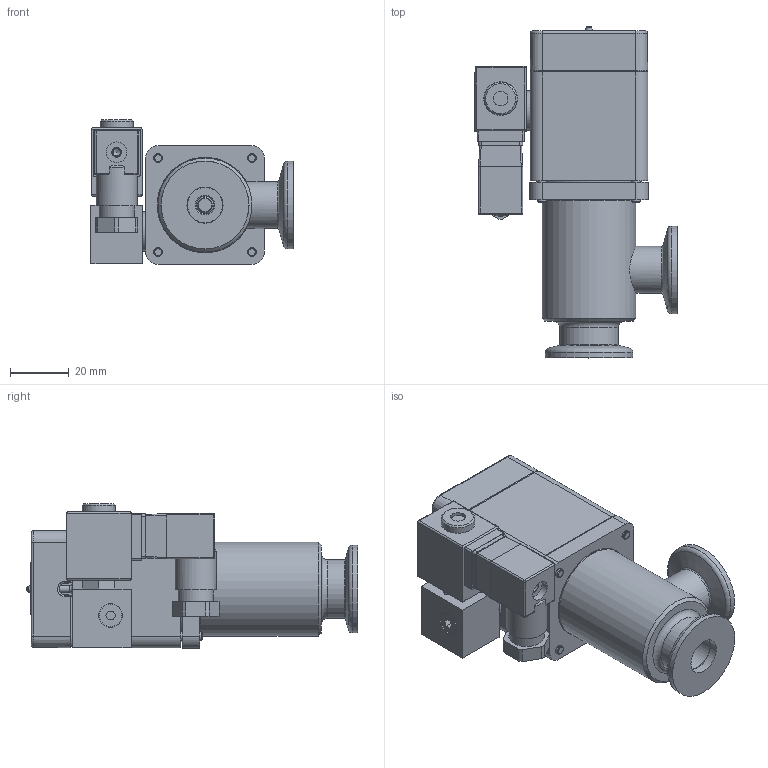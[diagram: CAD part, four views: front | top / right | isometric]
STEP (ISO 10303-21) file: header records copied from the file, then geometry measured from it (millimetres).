
FILE_DESCRIPTION(/* description */ (''),/* implementation_level */ '2;1');
FILE_NAME(/* name */ '1389490772_203.stp',/* time_stamp */ '2013-06-21T11:24:52+02:00',/* author */ (''),/* organization */ (''),/* preprocessor_version */ 'ST-DEVELOPER v11',/* originating_system */ 'SIEMENS PLM Software NX 7.5',/* authorisation */ '');
FILE_SCHEMA (('AP203_CONFIGURATION_CONTROLLED_3D_DESIGN_OF_MECHANICAL_PARTS_AND_ASSEMBLIES_MIM_LF'));
Length unit declared in the file: millimetre
Products named in the file (14): 233364; 236204_1.1; 346126.1; 245708.5; 346129.1; 244168.6; 243880.7; 244224.1; 238487.6; 238512.3; 238513.2; 239982.4; 346132.2; 599224
Assembly tree (17 placements, depth 3):
  599224
    238513.2
    238512.3
    238487.6
    346132.2
      346129.1
      245708.5
      346126.1
    244224.1  x4
    243880.7
    244168.6
    239982.4
      236204_1.1  x2
      233364
Bounding box: 68.85 x 113.1 x 49.3 mm (x, y, z)
Volume: 93939.5 mm3; surface area: 58819.5 mm2
Topology: 24 solids, 24 shells, 691 faces, 1647 edges, 1063 vertices
Faces by surface type: plane 388, cylinder 187, cone 70, bspline 26, torus 16, sphere 4
Full cylindrical faces by diameter (mm): 2 x1, 2.3 x1, 2.36 x4, 2.4 x4, 2.5 x4, 3 x20, 3.3 x1, 3.4 x4, 4 x2, 4.2 x1, 4.7 x3, 4.8 x1, 5 x5, 5.5 x4, 5.6 x2, 6 x5, 6.013 x2, 6.5 x4, 7 x1, 7.4 x1, 7.6 x1, 7.9 x1, 8 x1, 8.85 x1, 10.2 x1, 11.3 x1, 11.4 x1, 11.5 x1, 12 x4, 12.3 x2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
Entity records: 19815 total; most frequent: CARTESIAN_POINT 4063, DIRECTION 2872, ORIENTED_EDGE 2628, EDGE_CURVE 1314, AXIS2_PLACEMENT_3D 1035, VERTEX_POINT 943, EDGE_LOOP 872, LINE 802
